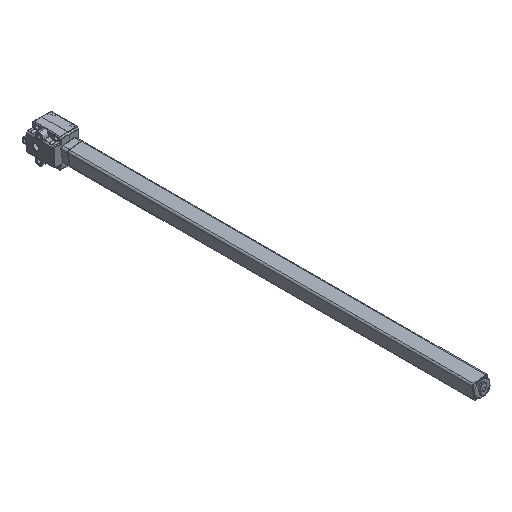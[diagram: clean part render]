
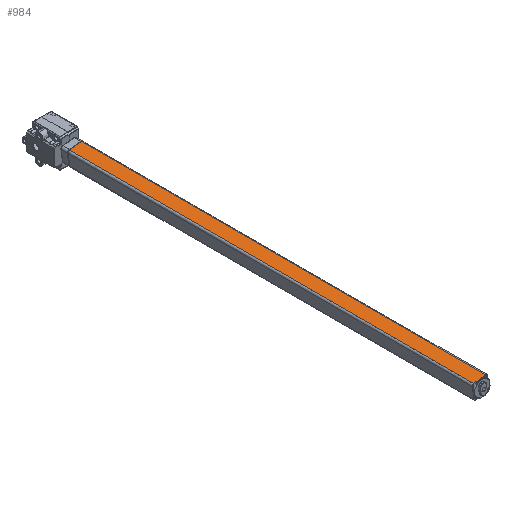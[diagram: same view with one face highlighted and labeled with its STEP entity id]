
A CAD part, isometric view. The second image highlights one B-rep face of the part: STEP entity #984.
In plain terms, the highlighted free-form (B-spline) face has degree [1, 1] with [2, 2] control points.
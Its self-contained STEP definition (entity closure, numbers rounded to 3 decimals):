
#984=ADVANCED_FACE('',(#2458),#43377,.T.);
#2458=FACE_OUTER_BOUND('',#3967,.T.);
#3967=EDGE_LOOP('',(#8556,#8557,#8558,#8559));
#8556=ORIENTED_EDGE('',*,*,#38532,.F.);
#8557=ORIENTED_EDGE('',*,*,#38548,.F.);
#8558=ORIENTED_EDGE('',*,*,#38522,.F.);
#8559=ORIENTED_EDGE('',*,*,#38554,.F.);
#15124=PCURVE('',#43372,#21745);
#15134=PCURVE('',#43373,#21755);
#15152=PCURVE('',#44086,#21773);
#15174=PCURVE('',#44089,#21795);
#15177=PCURVE('',#43377,#21798);
#15178=PCURVE('',#43377,#21799);
#15179=PCURVE('',#43377,#21800);
#15180=PCURVE('',#43377,#21801);
#21745=DEFINITIONAL_REPRESENTATION('',(#29684),#202883);
#21755=DEFINITIONAL_REPRESENTATION('',(#29699),#202883);
#21773=DEFINITIONAL_REPRESENTATION('',(#29726),#202883);
#21795=DEFINITIONAL_REPRESENTATION('',(#29754),#202883);
#21798=DEFINITIONAL_REPRESENTATION('',(#29757),#202883);
#21799=DEFINITIONAL_REPRESENTATION('',(#29758),#202883);
#21800=DEFINITIONAL_REPRESENTATION('',(#29759),#202883);
#21801=DEFINITIONAL_REPRESENTATION('',(#29760),#202883);
#29683=B_SPLINE_CURVE_WITH_KNOTS('',1,(#147923,#147924),.UNSPECIFIED.,.F.,
 .F.,(2,2),(0.,17.),.UNSPECIFIED.);
#29684=B_SPLINE_CURVE_WITH_KNOTS('',1,(#147925,#147926),.UNSPECIFIED.,.F.,
 .F.,(2,2),(0.,17.),.UNSPECIFIED.);
#29698=B_SPLINE_CURVE_WITH_KNOTS('',1,(#147988,#147989),.UNSPECIFIED.,.F.,
 .F.,(2,2),(-17.,0.),.UNSPECIFIED.);
#29699=B_SPLINE_CURVE_WITH_KNOTS('',1,(#147990,#147991),.UNSPECIFIED.,.F.,
 .F.,(2,2),(-17.,0.),.UNSPECIFIED.);
#29725=B_SPLINE_CURVE_WITH_KNOTS('',1,(#148091,#148092),.UNSPECIFIED.,.F.,
 .F.,(2,2),(0.,574.),.UNSPECIFIED.);
#29726=B_SPLINE_CURVE_WITH_KNOTS('',1,(#148093,#148094),.UNSPECIFIED.,.F.,
 .F.,(2,2),(0.,574.),.UNSPECIFIED.);
#29753=B_SPLINE_CURVE_WITH_KNOTS('',1,(#148147,#148148),.UNSPECIFIED.,.F.,
 .F.,(2,2),(-574.,0.),.UNSPECIFIED.);
#29754=B_SPLINE_CURVE_WITH_KNOTS('',1,(#148149,#148150),.UNSPECIFIED.,.F.,
 .F.,(2,2),(-574.,0.),.UNSPECIFIED.);
#29757=B_SPLINE_CURVE_WITH_KNOTS('',1,(#148155,#148156),.UNSPECIFIED.,.F.,
 .F.,(2,2),(-17.,0.),.UNSPECIFIED.);
#29758=B_SPLINE_CURVE_WITH_KNOTS('',1,(#148157,#148158),.UNSPECIFIED.,.F.,
 .F.,(2,2),(0.,574.),.UNSPECIFIED.);
#29759=B_SPLINE_CURVE_WITH_KNOTS('',1,(#148159,#148160),.UNSPECIFIED.,.F.,
 .F.,(2,2),(0.,17.),.UNSPECIFIED.);
#29760=B_SPLINE_CURVE_WITH_KNOTS('',1,(#148161,#148162),.UNSPECIFIED.,.F.,
 .F.,(2,2),(-574.,0.),.UNSPECIFIED.);
#35181=SURFACE_CURVE('',#29683,(#15124,#15179),.PCURVE_S1.);
#35191=SURFACE_CURVE('',#29698,(#15134,#15177),.PCURVE_S1.);
#35207=SURFACE_CURVE('',#29725,(#15152,#15178),.PCURVE_S1.);
#35213=SURFACE_CURVE('',#29753,(#15174,#15180),.PCURVE_S1.);
#38522=EDGE_CURVE('',#42197,#42198,#35181,.T.);
#38532=EDGE_CURVE('',#42213,#42215,#35191,.T.);
#38548=EDGE_CURVE('',#42198,#42213,#35207,.T.);
#38554=EDGE_CURVE('',#42215,#42197,#35213,.T.);
#42197=VERTEX_POINT('',#147843);
#42198=VERTEX_POINT('',#147844);
#42213=VERTEX_POINT('',#147859);
#42215=VERTEX_POINT('',#147861);
#43372=B_SPLINE_SURFACE_WITH_KNOTS('',1,1,((#147723,#147724),(#147725,#147726)),
 .UNSPECIFIED.,.F.,.F.,.F.,(2,2),(2,2),(-20.6,3.6),(-3.6,20.6),
 .UNSPECIFIED.);
#43373=B_SPLINE_SURFACE_WITH_KNOTS('',1,1,((#147727,#147728),(#147729,#147730)),
 .UNSPECIFIED.,.F.,.F.,.F.,(2,2),(2,2),(-3.6,20.6),(-20.6,3.6),
 .UNSPECIFIED.);
#43377=B_SPLINE_SURFACE_WITH_KNOTS('',1,1,((#147783,#147784),(#147785,#147786)),
 .UNSPECIFIED.,.F.,.F.,.F.,(2,2),(2,2),(-602.7,28.7),(-17.85,0.85),
 .UNSPECIFIED.);
#44086=(
BOUNDED_SURFACE()
B_SPLINE_SURFACE(2,1,((#147731,#147732),(#147733,#147734),(#147735,#147736),
(#147737,#147738),(#147739,#147740)),.UNSPECIFIED.,.F.,.F.,.F.)
B_SPLINE_SURFACE_WITH_KNOTS((3,2,3),(2,2),(1.492,2.356,
3.22),(-28.7,602.7),.UNSPECIFIED.)
GEOMETRIC_REPRESENTATION_ITEM()
RATIONAL_B_SPLINE_SURFACE(((1.,1.),(0.908,0.908),
(1.,1.),(0.908,0.908),(1.,1.)))
REPRESENTATION_ITEM('')
SURFACE()
);
#44089=(
BOUNDED_SURFACE()
B_SPLINE_SURFACE(2,1,((#147773,#147774),(#147775,#147776),(#147777,#147778),
(#147779,#147780),(#147781,#147782)),.UNSPECIFIED.,.F.,.F.,.F.)
B_SPLINE_SURFACE_WITH_KNOTS((3,2,3),(2,2),(3.063,3.927,
4.791),(-28.7,602.7),.UNSPECIFIED.)
GEOMETRIC_REPRESENTATION_ITEM()
RATIONAL_B_SPLINE_SURFACE(((1.,1.),(0.908,0.908),
(1.,1.),(0.908,0.908),(1.,1.)))
REPRESENTATION_ITEM('')
SURFACE()
);
#147723=CARTESIAN_POINT('',(10.394,-497.825,13.593));
#147724=CARTESIAN_POINT('',(13.593,-497.825,-10.394));
#147725=CARTESIAN_POINT('',(-13.593,-497.825,10.394));
#147726=CARTESIAN_POINT('',(-10.394,-497.825,-13.593));
#147727=CARTESIAN_POINT('',(10.394,76.175,13.593));
#147728=CARTESIAN_POINT('',(-13.593,76.175,10.394));
#147729=CARTESIAN_POINT('',(13.593,76.175,-10.394));
#147730=CARTESIAN_POINT('',(-10.394,76.175,-13.593));
#147731=CARTESIAN_POINT('',(-11.994,-526.525,6.778));
#147732=CARTESIAN_POINT('',(-11.994,104.875,6.778));
#147733=CARTESIAN_POINT('',(-12.235,-526.525,7.905));
#147734=CARTESIAN_POINT('',(-12.235,104.875,7.905));
#147735=CARTESIAN_POINT('',(-11.535,-526.525,8.82));
#147736=CARTESIAN_POINT('',(-11.535,104.875,8.82));
#147737=CARTESIAN_POINT('',(-10.835,-526.525,9.736));
#147738=CARTESIAN_POINT('',(-10.835,104.875,9.736));
#147739=CARTESIAN_POINT('',(-9.684,-526.525,9.798));
#147740=CARTESIAN_POINT('',(-9.684,104.875,9.798));
#147773=CARTESIAN_POINT('',(6.778,-526.525,11.994));
#147774=CARTESIAN_POINT('',(6.778,104.875,11.994));
#147775=CARTESIAN_POINT('',(7.905,-526.525,12.235));
#147776=CARTESIAN_POINT('',(7.905,104.875,12.235));
#147777=CARTESIAN_POINT('',(8.82,-526.525,11.535));
#147778=CARTESIAN_POINT('',(8.82,104.875,11.535));
#147779=CARTESIAN_POINT('',(9.736,-526.525,10.835));
#147780=CARTESIAN_POINT('',(9.736,104.875,10.835));
#147781=CARTESIAN_POINT('',(9.798,-526.525,9.684));
#147782=CARTESIAN_POINT('',(9.798,104.875,9.684));
#147783=CARTESIAN_POINT('',(-10.722,104.875,9.667));
#147784=CARTESIAN_POINT('',(7.814,104.875,12.14));
#147785=CARTESIAN_POINT('',(-10.722,-526.525,9.667));
#147786=CARTESIAN_POINT('',(7.814,-526.525,12.14));
#147843=CARTESIAN_POINT('',(6.971,-497.825,12.027));
#147844=CARTESIAN_POINT('',(-9.88,-497.825,9.78));
#147859=CARTESIAN_POINT('',(-9.88,76.175,9.78));
#147861=CARTESIAN_POINT('',(6.971,76.175,12.027));
#147923=CARTESIAN_POINT('',(6.971,-497.825,12.027));
#147924=CARTESIAN_POINT('',(-9.88,-497.825,9.78));
#147925=CARTESIAN_POINT('',(-17.,-2.5));
#147926=CARTESIAN_POINT('',(0.,-2.5));
#147988=CARTESIAN_POINT('',(-9.88,76.175,9.78));
#147989=CARTESIAN_POINT('',(6.971,76.175,12.027));
#147990=CARTESIAN_POINT('',(-2.5,0.));
#147991=CARTESIAN_POINT('',(-2.5,-17.));
#148091=CARTESIAN_POINT('',(-9.88,-497.825,9.78));
#148092=CARTESIAN_POINT('',(-9.88,76.175,9.78));
#148093=CARTESIAN_POINT('',(3.14,0.));
#148094=CARTESIAN_POINT('',(3.14,574.));
#148147=CARTESIAN_POINT('',(6.971,76.175,12.027));
#148148=CARTESIAN_POINT('',(6.971,-497.825,12.027));
#148149=CARTESIAN_POINT('',(3.143,574.));
#148150=CARTESIAN_POINT('',(3.143,0.));
#148155=CARTESIAN_POINT('',(-574.,-17.));
#148156=CARTESIAN_POINT('',(-574.,0.));
#148157=CARTESIAN_POINT('',(0.,-17.));
#148158=CARTESIAN_POINT('',(-574.,-17.));
#148159=CARTESIAN_POINT('',(0.,0.));
#148160=CARTESIAN_POINT('',(0.,-17.));
#148161=CARTESIAN_POINT('',(-574.,0.));
#148162=CARTESIAN_POINT('',(0.,0.));
#202883=(
GEOMETRIC_REPRESENTATION_CONTEXT(2)
PARAMETRIC_REPRESENTATION_CONTEXT()
REPRESENTATION_CONTEXT('pspace','')
);
